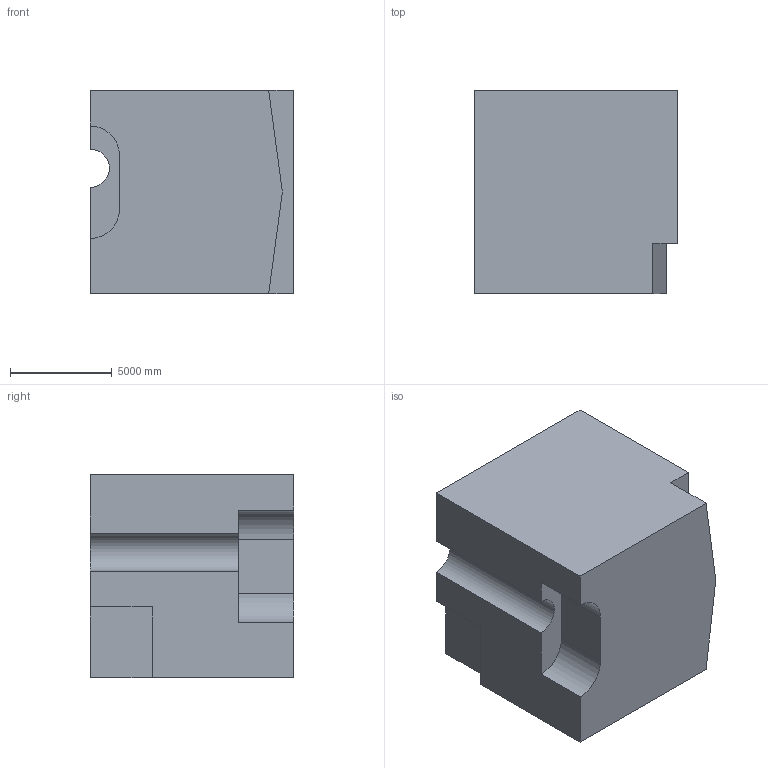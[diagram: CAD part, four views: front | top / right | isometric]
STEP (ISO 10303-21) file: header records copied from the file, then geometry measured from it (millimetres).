
FILE_DESCRIPTION (( 'STEP AP203' ), '1' );
FILE_NAME ('39.STEP', '2022-08-30T14:08:11', ( 'user' ), ( '' ), 'SwSTEP 2.0', 'SolidWorks 2021', '' );
FILE_SCHEMA (( 'CONFIG_CONTROL_DESIGN' ));
Length unit declared in the file: centimetre
Products named in the file (1): 39
Bounding box: 10000 x 10000 x 10000 mm (x, y, z)
Volume: 941995750990.4 mm3; surface area: 603636864.6 mm2
Topology: 1 solids, 1 shells, 18 faces, 48 edges, 32 vertices
Faces by surface type: plane 15, cylinder 3
Entity records: 635 total; most frequent: CARTESIAN_POINT 99, ORIENTED_EDGE 96, DIRECTION 92, EDGE_CURVE 48, LINE 42, VECTOR 42, VERTEX_POINT 32, AXIS2_PLACEMENT_3D 25
